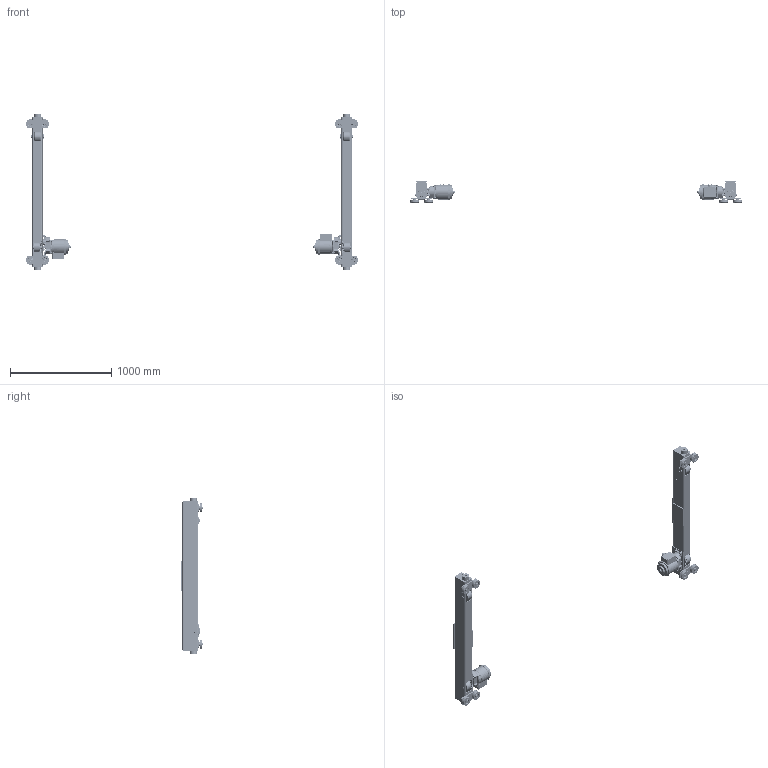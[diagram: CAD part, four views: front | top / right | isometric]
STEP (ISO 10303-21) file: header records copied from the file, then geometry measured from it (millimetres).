
FILE_DESCRIPTION (( 'STEP AP214' ), '1' );
FILE_NAME ('TMH-3-0135.STEP', '2026-08-10T19:22:37', ( '' ), ( '' ), 'SwSTEP 2.0', 'SolidWorks 2026', '' );
FILE_SCHEMA (( 'AUTOMOTIVE_DESIGN' ));
Length unit declared in the file: inch
Products named in the file (62): G1JE025S9603; N6QL210207; 6240823; N6QO3101108_N6QO3101108; 9093101_9093101; G1JE025S9707; 6240802; 6240804; 9012709_Rectangular section spring washer BS 4464 - 16 (Type B); 6240814; 6232404; 62395_0135 - 25# RAIL; N6QO3101102; 9000605; 9798526_9798526; 6240805X_6240805A; 9047125_B27.7M - 3AM1-23; 62393_6239301; 9047252_9047252; G1JE040S9609; 9093330_9093330; 9091254_9091254; 6240822; N6QO310E91012; G1JE025S9610; 9012711_9012711; 62588; 6240817X_6240817A; 6240806; N6QO3101101; 9012707_9012707; 9012514_9012514; 6240825; 9091273_9091273; G1JE025S9310; G1JE040T9503; 9093327_9093327; TMH-3-0135; N6QO310E9108_N6QO3101108 DOMESTIC; T7G117020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
Assembly tree (224 placements, depth 4):
  TMH-3-0135
    62395_0135 - 25# RAIL
      62393_6239301
        T600-400-004_57.125
        6240822
        6240823
      6240806  x2
      6240817X_6240817A  x2
        6240805X_6240805A
        6232305
      6240813
      T7G117020
      6240802
      6240803
      6240804
    62396_0135 - 25# RAIL
      62394_6239401
        T600-400-004 sp_57.125
        6240822
        6240823
      6240806  x2
      6240813
      6240817X_6240817A  x2
        6240805X_6240805A
        6232305
      T7G117020
      6240802
      6240803
      6240804
    6240814  x4
    6240825  x2
    6240826  x2
    9012711_9012711  x18
    9093327_9093327  x6
    N6QL210207  x4
    9012514_9012514  x4
    9093101_9093101  x4
    N6QO3101108_N6QO3101108  x8
      N6QO310E9108_N6QO3101108 DOMESTIC
      9047252_9047252
      9000605
    6232404  x8
    9047125_B27.7M - 3AM1-23  x8
    N6QO3101102  x2
      N6Q0310E9102_Domestic
      9000705
    N6QO3101101  x2
      N6QO310E91012
      9000705
    G1JM040T_ROTATED 180 DEGREES
      G1JE025S9303
      G1JE025S9310
      G1JE025S9401
      G1JE025S9610
      G1JE025S9604
      G1JE025S9603
      9012709_Rectangular section spring washer BS 4464 - 16 (Type B)  x12
      9091250_9091250  x8
      9091273_9091273  x4
      MS555010_MS555010  x4
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Bounding box: 3275.41 x 207.96 x 1548.03 mm (x, y, z)
Volume: 21480399.6 mm3; surface area: 5347964.7 mm2
Topology: 230 solids, 294 shells, 15104 faces, 38978 edges, 25192 vertices
Faces by surface type: plane 8404, cylinder 3446, bspline 1610, torus 756, cone 690, sphere 198
Entity records: 155303 total; most frequent: CARTESIAN_POINT 60371, ORIENTED_EDGE 19400, DIRECTION 18253, EDGE_CURVE 9704, AXIS2_PLACEMENT_3D 6976, VERTEX_POINT 6214, LINE 4301, VECTOR 4301
